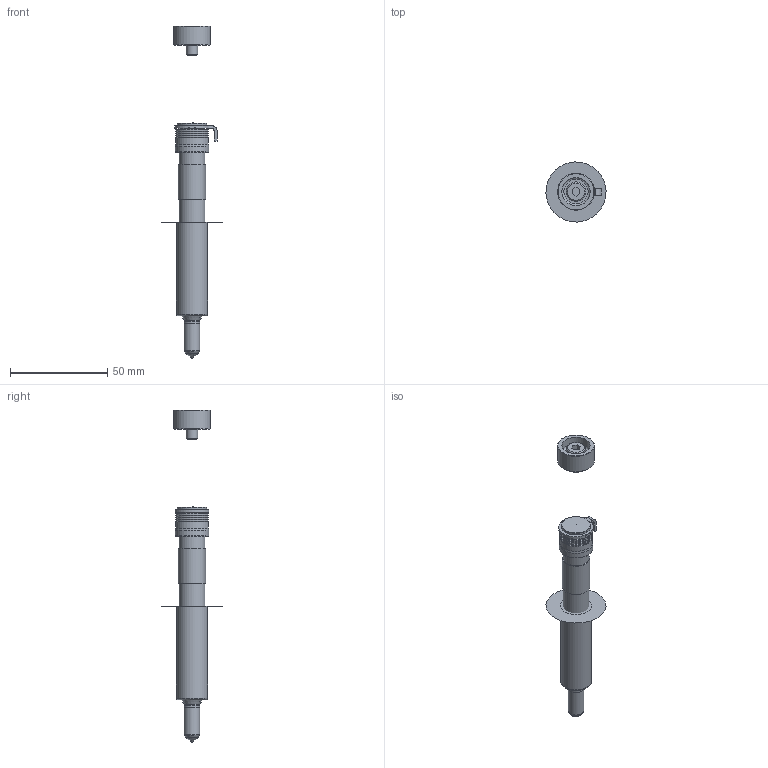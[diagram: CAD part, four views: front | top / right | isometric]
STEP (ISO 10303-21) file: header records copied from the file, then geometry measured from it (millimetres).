
FILE_DESCRIPTION(/* description */ (''),/* implementation_level */ '2;1');
FILE_NAME(/* name */ 'U350 HT-DX.stp',/* time_stamp */ '2021-12-23T14:27:45+08:00',/* author */ (''),/* organization */ (''),/* preprocessor_version */ 'ST-DEVELOPER v16',/* originating_system */ 'SIEMENS PLM Software NX 11.0',/* authorisation */ '');
FILE_SCHEMA (('AUTOMOTIVE_DESIGN { 1 0 10303 214 3 1 1 1 }'));
Length unit declared in the file: millimetre
Products named in the file (12): 3D_EXPORT_3D_ASSY_11312044_1_id64_x_t; 3D_EXPORT_3D_ASSY_11312044_1_id57_x_t; 3D_EXPORT_3D_ASSY_11312044_1_id52_x_t; 3D_EXPORT_3D_ASSY_11312044_1_id47_x_t; 3D_EXPORT_3D_ASSY_11312044_1_id42_x_t; 3D_EXPORT_3D_ASSY_11312044_1_id37_x_t; 3D_EXPORT_3D_ASSY_11312044_1_id32_x_t; 3D_EXPORT_3D_ASSY_11312044_1_id27_x_t; 3D_EXPORT_3D_ASSY_11312044_1_id16_x_t; 3D_EXPORT_3D_ASSY_11312044_1_id11_x_t; 3D_EXPORT_3D_ASSY_11312044_1_id6_x_t; 3D_EXPORT_3D_ASSY_11312044_1_x_t
Assembly tree (15 placements, depth 2):
  3D_EXPORT_3D_ASSY_11312044_1_x_t
    3D_EXPORT_3D_ASSY_11312044_1_id6_x_t
    3D_EXPORT_3D_ASSY_11312044_1_id11_x_t
    3D_EXPORT_3D_ASSY_11312044_1_id16_x_t  x4
    3D_EXPORT_3D_ASSY_11312044_1_id27_x_t
    3D_EXPORT_3D_ASSY_11312044_1_id32_x_t
    3D_EXPORT_3D_ASSY_11312044_1_id37_x_t
    3D_EXPORT_3D_ASSY_11312044_1_id42_x_t
    3D_EXPORT_3D_ASSY_11312044_1_id47_x_t
    3D_EXPORT_3D_ASSY_11312044_1_id52_x_t
    3D_EXPORT_3D_ASSY_11312044_1_id57_x_t  x2
    3D_EXPORT_3D_ASSY_11312044_1_id64_x_t
Bounding box: 30.97 x 30.97 x 171.1 mm (x, y, z)
Volume: 37598.1 mm3; surface area: 18742.6 mm2
Topology: 15 solids, 15 shells, 369 faces, 928 edges, 593 vertices
Faces by surface type: cylinder 165, plane 118, torus 51, cone 34, sphere 1
Full cylindrical faces by diameter (mm): 0.7 x1, 1.194 x1, 4.6 x1, 5.795 x1, 6 x1, 6.89 x1, 7.2 x1, 7.283 x1, 7.87 x1, 7.995 x1, 8 x2, 9.4 x1, 9.95 x1, 9.97 x2, 10 x2, 11.06 x1, 13.3 x2, 14 x1, 14.05 x1, 14.5 x1, 15 x1, 16 x1, 16.9 x4, 17 x1, 17.27 x1, 19 x1, 31 x1
Entity records: 12584 total; most frequent: CARTESIAN_POINT 2191, DIRECTION 1611, ORIENTED_EDGE 1498, EDGE_CURVE 749, AXIS2_PLACEMENT_3D 653, VERTEX_POINT 515, EDGE_LOOP 457, PRESENTATION_STYLE_ASSIGNMENT 352
